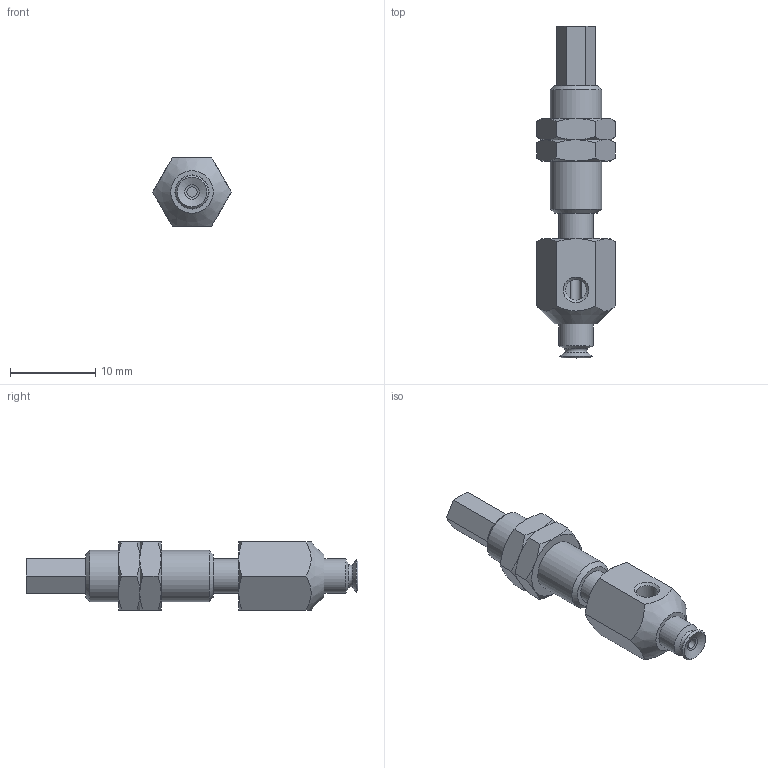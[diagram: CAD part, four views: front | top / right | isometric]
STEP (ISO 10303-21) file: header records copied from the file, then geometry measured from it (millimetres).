
FILE_DESCRIPTION(('STEP AP203'),'1');
FILE_NAME('.stp','2025-04-09T05:16:07',(' '),(' '),'Spatial InterOp 3D',' ',' ');
FILE_SCHEMA(('CONFIG_CONTROL_DESIGN'));
Length unit declared in the file: millimetre
Products named in the file (6): BNABPFYS-3.5A-3-※; CONNECTOR-3.5A-3; Nut-3.5A-3-s; NAPFTS-3.5A-3-FBODY; NAPFTS-3.5A-3-MBODY; BPFG-3.5A-※
Assembly tree (6 placements, depth 2):
  BNABPFYS-3.5A-3-※
    CONNECTOR-3.5A-3
    Nut-3.5A-3-s  x2
    NAPFTS-3.5A-3-FBODY
    NAPFTS-3.5A-3-MBODY
    BPFG-3.5A-※
Bounding box: 9.24 x 39 x 8 mm (x, y, z)
Volume: 1225 mm3; surface area: 1850.1 mm2
Topology: 6 solids, 6 shells, 126 faces, 269 edges, 161 vertices
Faces by surface type: plane 56, cone 47, cylinder 15, torus 7, bspline 1
Full cylindrical faces by diameter (mm): 1.2 x2, 2 x2, 2.459 x2, 3 x3, 4 x3, 5.188 x2, 6 x1
Entity records: 3075 total; most frequent: CARTESIAN_POINT 759, DIRECTION 422, ORIENTED_EDGE 356, AXIS2_PLACEMENT_3D 183, EDGE_CURVE 178, EDGE_LOOP 154, VERTEX_POINT 126, FACE_OUTER_BOUND 125
